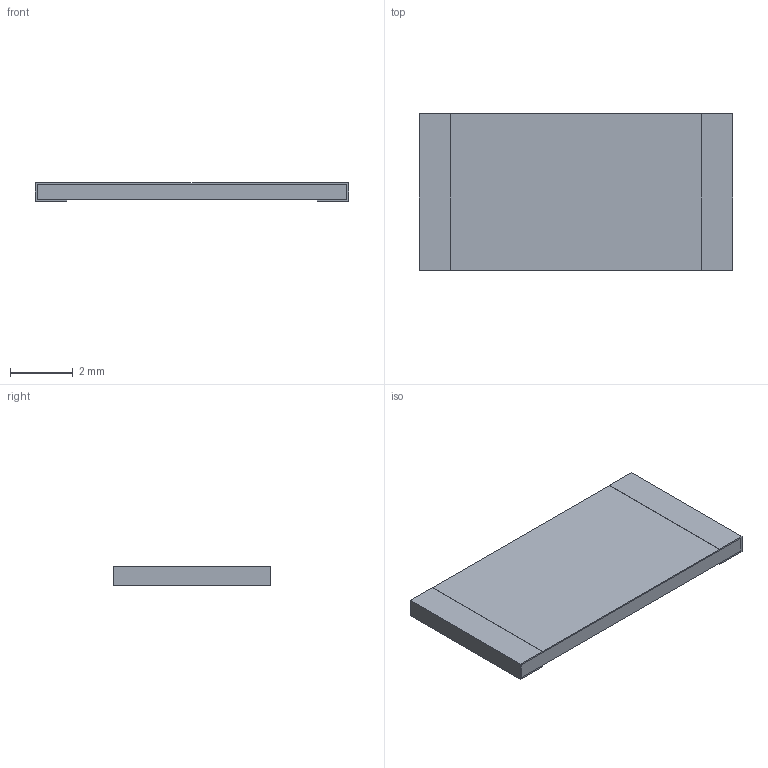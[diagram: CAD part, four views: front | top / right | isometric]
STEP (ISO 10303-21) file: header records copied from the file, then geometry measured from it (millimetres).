
FILE_DESCRIPTION(('STEP AP203'), '1');
FILE_NAME('Ð1-153 4020', '', ('UNSPECIFIED'), ('UNSPECIFIED'), 'ASCON STEP Converter 1.6', 'ASCON Math Kernel', '');
FILE_SCHEMA(('CONFIG_CONTROL_DESIGN'));
Length unit declared in the file: millimetre
Bounding box: 10 x 5 x 0.6 mm (x, y, z)
Volume: 27.6 mm3; surface area: 246.4 mm2
Topology: 4 solids, 4 shells, 32 faces, 72 edges, 48 vertices
Faces by surface type: plane 32
Entity records: 1194 total; most frequent: CARTESIAN_POINT 153, ORIENTED_EDGE 144, DIRECTION 138, EDGE_CURVE 72, LINE 72, VECTOR 72, VERTEX_POINT 48, COLOUR_RGB 36
